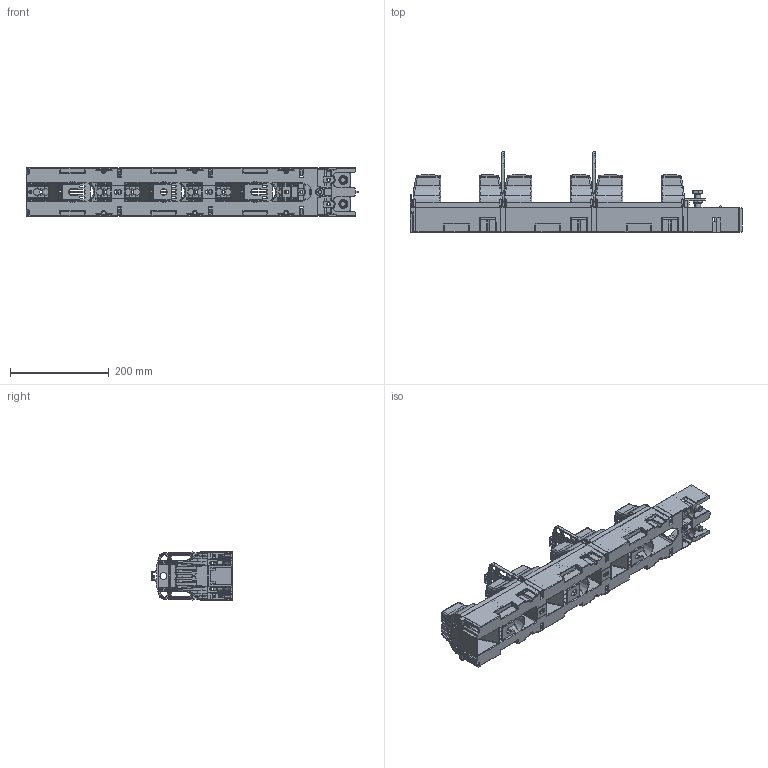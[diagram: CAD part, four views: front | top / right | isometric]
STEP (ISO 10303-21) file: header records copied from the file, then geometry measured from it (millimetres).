
FILE_DESCRIPTION (( 'STEP AP214' ), '1' );
FILE_NAME ('FSR123-3K-LM.step', '2014-11-20T13:53:25', ( '' ), ( '' ), 'SwSTEP 2.0', 'SolidWorks 2011', '' );
FILE_SCHEMA (( 'AUTOMOTIVE_DESIGN' ));
Length unit declared in the file: millimetre
Products named in the file (1): FSR123-3K-LM
Bounding box: 674 x 165 x 99 mm (x, y, z)
Volume: 785614.4 mm3; surface area: 772141.6 mm2
Topology: 21 solids, 21 shells, 6191 faces, 16894 edges, 10409 vertices
Faces by surface type: plane 2702, cylinder 2083, bspline 620, sphere 294, cone 264, torus 228
Entity records: 279497 total; most frequent: CARTESIAN_POINT 62938, ORIENTED_EDGE 33332, DIRECTION 28684, EDGE_CURVE 16666, VERTEX_POINT 10409, LINE 9700, VECTOR 9700, AXIS2_PLACEMENT_3D 9492
